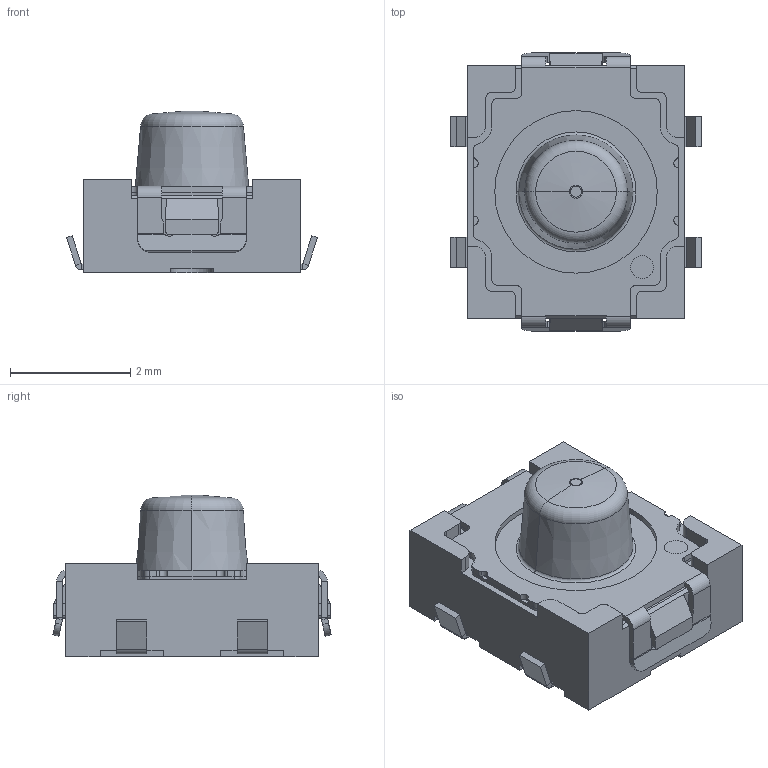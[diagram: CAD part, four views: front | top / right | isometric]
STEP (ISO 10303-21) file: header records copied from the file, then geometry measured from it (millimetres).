
FILE_DESCRIPTION (( 'STEP AP214' ), '1' );
FILE_NAME ('HSFPAR304A.STEP', '2023-04-04T01:36:54', ( '' ), ( '' ), 'SwSTEP 2.0', 'SolidWorks 2021', '' );
FILE_SCHEMA (( 'AUTOMOTIVE_DESIGN' ));
Length unit declared in the file: millimetre
Products named in the file (1): HSFPAR304A
Bounding box: 4.17 x 4.62 x 2.69 mm (x, y, z)
Volume: 24.5 mm3; surface area: 76.7 mm2
Topology: 1 solids, 1 shells, 381 faces, 976 edges, 601 vertices
Faces by surface type: plane 244, cylinder 115, cone 12, torus 6, bspline 4
Entity records: 13661 total; most frequent: CARTESIAN_POINT 2117, ORIENTED_EDGE 1952, DIRECTION 1940, EDGE_CURVE 976, VECTOR 676, LINE 676, AXIS2_PLACEMENT_3D 632, VERTEX_POINT 601
